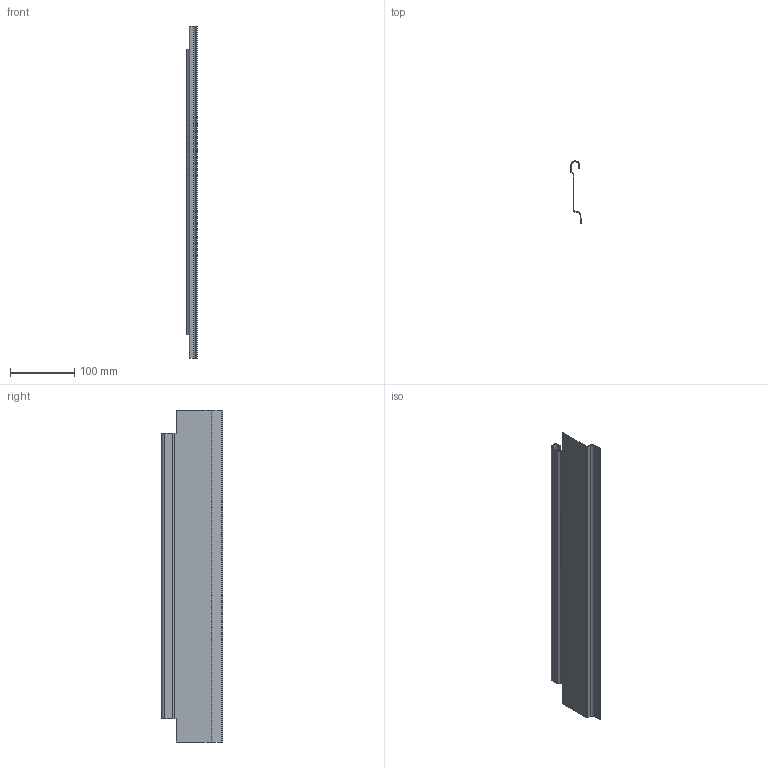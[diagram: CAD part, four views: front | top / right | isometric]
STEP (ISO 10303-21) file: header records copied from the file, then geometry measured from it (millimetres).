
FILE_DESCRIPTION (( 'STEP AP214' ), '1' );
FILE_NAME ('_Solowing NL550.step', '2010-07-14T13:31:58', ( 'grass' ), ( '' ), 'SwSTEP 2.0', 'SolidWorks 2010', '' );
FILE_SCHEMA (( 'AUTOMOTIVE_DESIGN' ));
Length unit declared in the file: millimetre
Products named in the file (1): _Solowing NL550
Bounding box: 16.3 x 96 x 518 mm (x, y, z)
Volume: 48764.6 mm3; surface area: 122938.5 mm2
Topology: 1 solids, 1 shells, 46 faces, 108 edges, 64 vertices
Faces by surface type: plane 36, cylinder 10
Entity records: 1314 total; most frequent: DIRECTION 222, CARTESIAN_POINT 219, ORIENTED_EDGE 216, EDGE_CURVE 108, VECTOR 88, LINE 88, AXIS2_PLACEMENT_3D 67, VERTEX_POINT 64
